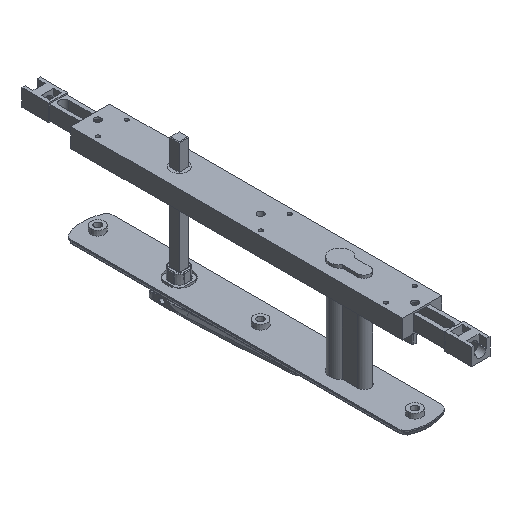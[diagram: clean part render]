
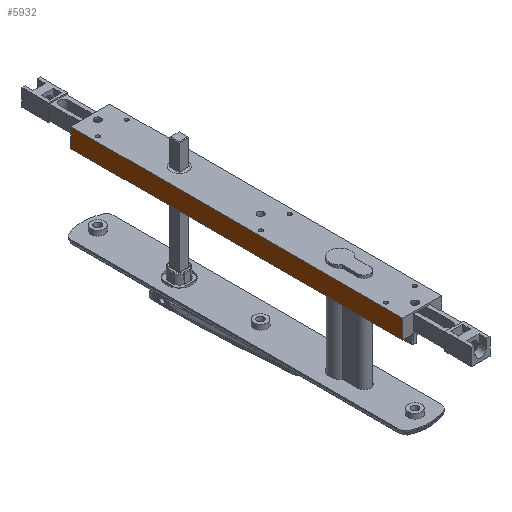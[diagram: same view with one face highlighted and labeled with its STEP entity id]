
A CAD part, isometric view. The second image highlights one B-rep face of the part: STEP entity #5932.
In plain terms, the highlighted planar face has unit normal (-1, 0, 0).
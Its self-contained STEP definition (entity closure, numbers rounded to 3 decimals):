
#744 = VERTEX_POINT ( 'NONE', #21997 ) ;
#1171 = EDGE_CURVE ( 'NONE', #6033, #744, #15696, .T. ) ;
#2187 = DIRECTION ( 'NONE',  ( 0., -1., 0. ) ) ;
#2293 = CARTESIAN_POINT ( 'NONE',  ( -16., 72.75, 7.75 ) ) ;
#4962 = ORIENTED_EDGE ( 'NONE', *, *, #20995, .F. ) ;
#4979 = VECTOR ( 'NONE', #2187, 1000. ) ;
#5932 = ADVANCED_FACE ( 'NONE', ( #14204 ), #11454, .F. ) ;
#6033 = VERTEX_POINT ( 'NONE', #25212 ) ;
#6216 = CARTESIAN_POINT ( 'NONE',  ( -16., 72.75, 7.75 ) ) ;
#6316 = ORIENTED_EDGE ( 'NONE', *, *, #13754, .F. ) ;
#6589 = CARTESIAN_POINT ( 'NONE',  ( -16., -199.25, -7.75 ) ) ;
#8676 = DIRECTION ( 'NONE',  ( 0., 0., -1. ) ) ;
#9179 = DIRECTION ( 'NONE',  ( 1., 0., 0. ) ) ;
#9253 = VECTOR ( 'NONE', #26782, 1000. ) ;
#9259 = VECTOR ( 'NONE', #10074, 1000. ) ;
#10074 = DIRECTION ( 'NONE',  ( 0., -1., 0. ) ) ;
#10164 = AXIS2_PLACEMENT_3D ( 'NONE', #2293, #9179, #11906 ) ;
#11454 = PLANE ( 'NONE',  #10164 ) ;
#11906 = DIRECTION ( 'NONE',  ( 0., 1., 0. ) ) ;
#13753 = VECTOR ( 'NONE', #8676, 1000. ) ;
#13754 = EDGE_CURVE ( 'NONE', #22728, #15067, #17470, .T. ) ;
#13809 = LINE ( 'NONE', #23109, #4979 ) ;
#14204 = FACE_OUTER_BOUND ( 'NONE', #18280, .T. ) ;
#15067 = VERTEX_POINT ( 'NONE', #6589 ) ;
#15181 = CARTESIAN_POINT ( 'NONE',  ( -16., -199.25, 7.75 ) ) ;
#15696 = LINE ( 'NONE', #6216, #13753 ) ;
#15729 = CARTESIAN_POINT ( 'NONE',  ( -16., -199.25, 7.75 ) ) ;
#16169 = EDGE_CURVE ( 'NONE', #744, #15067, #21671, .T. ) ;
#17470 = LINE ( 'NONE', #15181, #9253 ) ;
#18280 = EDGE_LOOP ( 'NONE', ( #21115, #6316, #4962, #23196 ) ) ;
#20995 = EDGE_CURVE ( 'NONE', #6033, #22728, #13809, .T. ) ;
#21115 = ORIENTED_EDGE ( 'NONE', *, *, #16169, .T. ) ;
#21671 = LINE ( 'NONE', #28670, #9259 ) ;
#21997 = CARTESIAN_POINT ( 'NONE',  ( -16., 72.75, -7.75 ) ) ;
#22728 = VERTEX_POINT ( 'NONE', #15729 ) ;
#23109 = CARTESIAN_POINT ( 'NONE',  ( -16., 72.75, 7.75 ) ) ;
#23196 = ORIENTED_EDGE ( 'NONE', *, *, #1171, .T. ) ;
#25212 = CARTESIAN_POINT ( 'NONE',  ( -16., 72.75, 7.75 ) ) ;
#26782 = DIRECTION ( 'NONE',  ( 0., 0., -1. ) ) ;
#28670 = CARTESIAN_POINT ( 'NONE',  ( -16., 72.75, -7.75 ) ) ;
